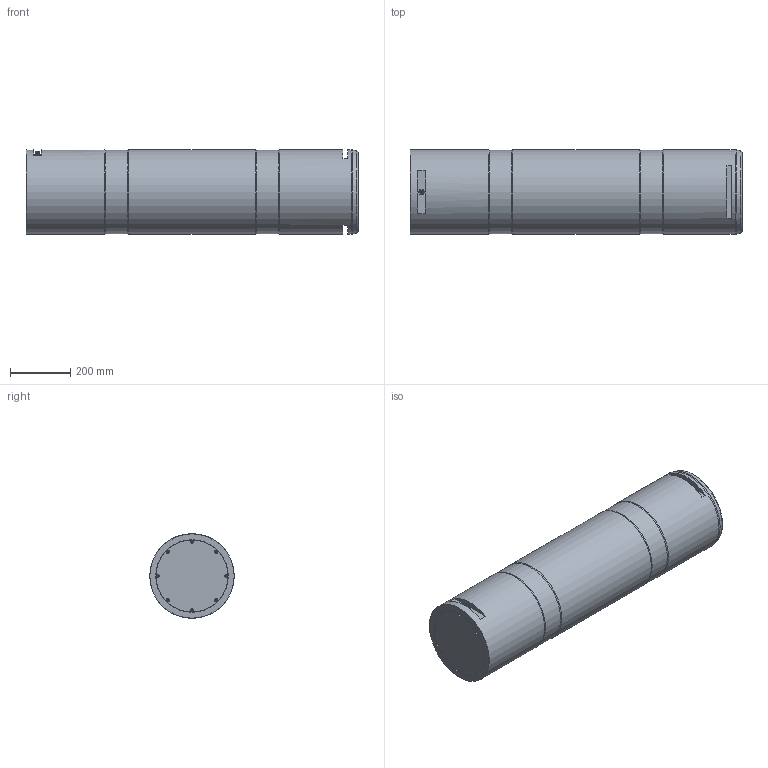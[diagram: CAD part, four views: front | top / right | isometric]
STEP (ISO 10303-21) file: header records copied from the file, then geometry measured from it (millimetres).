
FILE_DESCRIPTION(/* description */ ('Alibre Inc.'),/* implementation_level */ '2;1');
FILE_NAME(/* name */ 'export-D2A9DDBD-CF74-477C-AC24-40A21791F974',/* time_stamp */ '2019-01-21T13:54:36+01:00',/* author */ (''),/* organization */ (''),/* preprocessor_version */ 'ST-DEVELOPER v17',/* originating_system */ 'Alibre',/* authorisation */ '');
FILE_SCHEMA (('CONFIG_CONTROL_DESIGN'));
Length unit declared in the file: millimetre
Products named in the file (4): ID_1; ID_2
Bounding box: 1100 x 280 x 280 mm (x, y, z)
Volume: 67418832.5 mm3; surface area: 1402886.5 mm2
Topology: 8 solids, 9 shells, 197 faces, 407 edges, 258 vertices
Faces by surface type: cylinder 79, plane 79, bspline 23, torus 8, cone 8
Full cylindrical faces by diameter (mm): 0.5 x8, 4.5 x16, 8 x2, 10 x18, 11 x1, 11.5 x1, 12 x1, 13 x2, 218 x2, 220 x2, 238 x2, 240 x2, 278 x2, 280 x3
Entity records: 14849 total; most frequent: CARTESIAN_POINT 11543, ORIENTED_EDGE 562, DIRECTION 465, EDGE_LOOP 276, FACE_BOUND 276, EDGE_CURVE 274, AXIS2_PLACEMENT_3D 233, VERTEX_POINT 202
